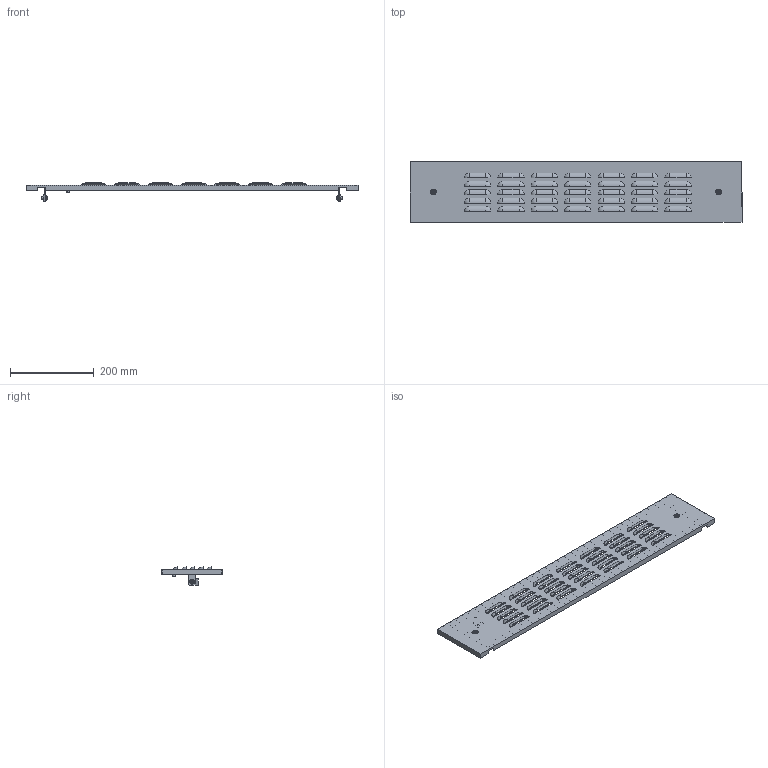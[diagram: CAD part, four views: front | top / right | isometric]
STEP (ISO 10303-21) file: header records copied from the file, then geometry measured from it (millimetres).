
FILE_DESCRIPTION (( 'STEP AP214' ), '1' );
FILE_NAME ('FO-00-PWSV-015-080 Ôàëüø-ïàíåëü âíåøíÿÿ âåíòèëèðóåìàÿ 150õ800 ìì.STEP', '2025-08-25T07:41:39', ( '' ), ( '' ), 'SwSTEP 2.0', 'SolidWorks 2023', '' );
FILE_SCHEMA (( 'AUTOMOTIVE_DESIGN' ));
Length unit declared in the file: millimetre
Products named in the file (1): FO-00-PWSV-015-080 Фальш-панель внешняя вентилируемая 150х800 мм
Bounding box: 795 x 146 x 43.5 mm (x, y, z)
Volume: 343059.8 mm3; surface area: 306258.9 mm2
Topology: 1 solids, 6 shells, 849 faces, 2294 edges, 1331 vertices
Faces by surface type: plane 377, cylinder 282, sphere 140, cone 34, torus 16
Entity records: 25953 total; most frequent: DIRECTION 4772, CARTESIAN_POINT 4619, ORIENTED_EDGE 4304, EDGE_CURVE 2152, AXIS2_PLACEMENT_3D 1786, VERTEX_POINT 1331, LINE 1200, VECTOR 1200
